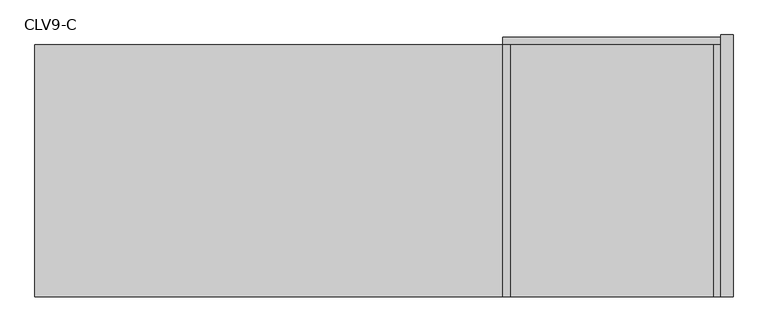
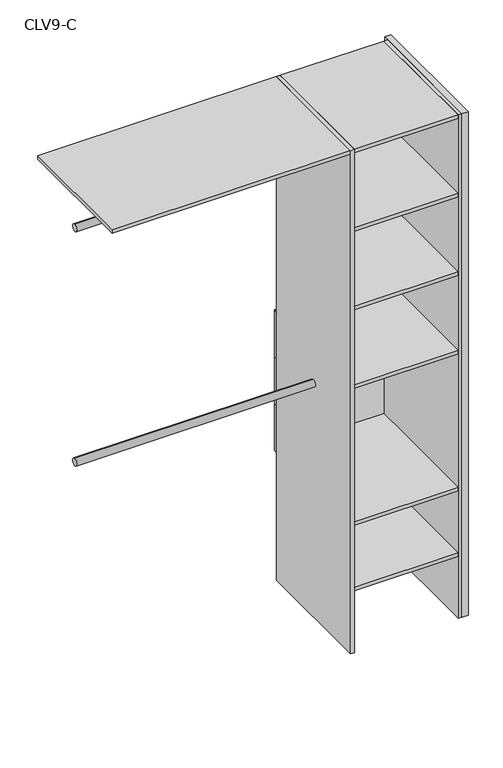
"""IFC4 building model written with IfcOpenShell, lengths in millimetres: furniture geometry, Closet 1estantes-1tubos_lateral estante : CLV9-C."""

from ifc_helpers import new_model, si_unit, point, frame, frame_2d, origin, origin_with_axes, place, context, project, spatial, polyline, circle_curve, trimmed, segment, composite_curve, outline, extrude, source, transform, mapped, element, save


def clv9_c_d69b0f3d(model_context):
    return source(origin(), model_context, "Body", "SweptSolid", [
        extrude(outline(polyline([(250.0, -60.0), (250.0, -600.0), (225.0, -600.0), (225.0, -60.0), (250.0, -60.0)])), origin_with_axes(), (0.0, 0.0, 1.0), 2150.0),
        extrude(outline(polyline([(225.0, -80.0), (225.0, -600.0), (210.0, -600.0), (210.0, -80.0), (225.0, -80.0)])), origin_with_axes(), (0.0, 0.0, 1.0), 2150.0),
        extrude(outline(polyline([(-210.0, -80.0), (-210.0, -600.0), (-225.0, -600.0), (-225.0, -80.0), (-210.0, -80.0)])), origin_with_axes(), (0.0, 0.0, 1.0), 2150.0),
        extrude(outline(polyline([(225.0, -80.0), (-225.0, -80.0), (-225.0, -65.0), (225.0, -65.0), (225.0, -80.0)])), frame((0.0, 0.0, 945.0), z_axis=(0.0, 0.0, 1.0), x_axis=(1.0, 0.0, 0.0)), (0.0, 0.0, 1.0), 200.0),
        extrude(outline(polyline([(225.0, -80.0), (-225.0, -80.0), (-225.0, -65.0), (225.0, -65.0), (225.0, -80.0)])), frame((0.0, 0.0, 745.0), z_axis=(0.0, 0.0, 1.0), x_axis=(1.0, 0.0, 0.0)), (0.0, 0.0, 1.0), 200.0),
        extrude(outline(polyline([(225.0, -80.0), (-225.0, -80.0), (-225.0, -65.0), (225.0, -65.0), (225.0, -80.0)])), frame((0.0, 0.0, 545.0), z_axis=(0.0, 0.0, 1.0), x_axis=(1.0, 0.0, 0.0)), (0.0, 0.0, 1.0), 200.0),
        extrude(outline(polyline([(210.0, -80.0), (210.0, -600.0), (-210.0, -600.0), (-210.0, -80.0), (210.0, -80.0)])), frame((0.0, 0.0, 1130.0), z_axis=(0.0, 0.0, 1.0), x_axis=(1.0, 0.0, 0.0)), (0.0, 0.0, 1.0), 15.0),
        extrude(outline(composite_curve([segment(trimmed(circle_curve(frame_2d((-340.0, 1000.0)), 15.0), [point((-340.0, 1015.0))], [point((-340.0, 985.0))], False, "CARTESIAN"), True, "CONTINUOUS"), segment(trimmed(circle_curve(frame_2d((-340.0, 1000.0)), 15.0), [point((-340.0, 985.0))], [point((-340.0, 1015.0))], False, "CARTESIAN"), True, "CONTINUOUS")], self_intersect=False)), frame((-1190.0, 0.0, 0.0), z_axis=(1.0, 0.0, 0.0), x_axis=(0.0, 1.0, 0.0)), (0.0, 0.0, 1.0), 965.0),
        extrude(outline(composite_curve([segment(trimmed(circle_curve(frame_2d((-340.0, 2000.0)), 15.0), [point((-340.0, 2015.0))], [point((-340.0, 1985.0))], False, "CARTESIAN"), True, "CONTINUOUS"), segment(trimmed(circle_curve(frame_2d((-340.0, 2000.0)), 15.0), [point((-340.0, 1985.0))], [point((-340.0, 2015.0))], False, "CARTESIAN"), True, "CONTINUOUS")], self_intersect=False)), frame((-1190.0, 0.0, 0.0), z_axis=(1.0, 0.0, 0.0), x_axis=(0.0, 1.0, 0.0)), (0.0, 0.0, 1.0), 965.0),
        extrude(outline(polyline([(210.0, -80.0), (210.0, -600.0), (-210.0, -600.0), (-210.0, -80.0), (210.0, -80.0)])), frame((0.0, 0.0, 265.0), z_axis=(0.0, 0.0, 1.0), x_axis=(1.0, 0.0, 0.0)), (0.0, 0.0, 1.0), 15.0),
        extrude(outline(polyline([(210.0, -80.0), (210.0, -600.0), (-210.0, -600.0), (-210.0, -80.0), (210.0, -80.0)])), frame((0.0, 0.0, 545.0), z_axis=(0.0, 0.0, 1.0), x_axis=(1.0, 0.0, 0.0)), (0.0, 0.0, 1.0), 15.0),
        extrude(outline(polyline([(210.0, -80.0), (210.0, -600.0), (-210.0, -600.0), (-210.0, -80.0), (210.0, -80.0)])), frame((0.0, 0.0, 1465.0), z_axis=(0.0, 0.0, 1.0), x_axis=(1.0, 0.0, 0.0)), (0.0, 0.0, 1.0), 15.0),
        extrude(outline(polyline([(210.0, -80.0), (210.0, -600.0), (-210.0, -600.0), (-210.0, -80.0), (210.0, -80.0)])), frame((0.0, 0.0, 1800.0), z_axis=(0.0, 0.0, 1.0), x_axis=(1.0, 0.0, 0.0)), (0.0, 0.0, 1.0), 15.0),
        extrude(outline(polyline([(-210.0, -80.0), (-210.0, -600.0), (-1190.0, -600.0), (-1190.0, -80.0), (-210.0, -80.0)])), frame((0.0, 0.0, 2135.0), z_axis=(0.0, 0.0, 1.0), x_axis=(1.0, 0.0, 0.0)), (0.0, 0.0, 1.0), 15.0),
        extrude(outline(polyline([(210.0, -80.0), (210.0, -600.0), (-210.0, -600.0), (-210.0, -80.0), (210.0, -80.0)])), frame((0.0, 0.0, 2135.0), z_axis=(0.0, 0.0, 1.0), x_axis=(1.0, 0.0, 0.0)), (0.0, 0.0, 1.0), 15.0),
    ])


if __name__ == "__main__":
    model = new_model("IFC4")
    model_context = context("Model", 3, world=origin())
    ifc_project = project(units=[si_unit("LENGTHUNIT", "METRE", prefix="MILLI")], contexts=[model_context])
    site = spatial("IfcSite", under=ifc_project)
    building = spatial("IfcBuilding", under=site)
    placement = place(None, origin())
    clv9_c_shape = clv9_c_d69b0f3d(model_context)
    element("IfcFurniture", 1, ObjectType="Closet 1estantes-1tubos_lateral estante : CLV9-C", at=placement, inside=building, context=model_context, shape_type="MappedRepresentation", body=[
        mapped(clv9_c_shape, transform((0.0, 0.0, 0.0), x_axis=(1.0, 0.0, 0.0), y_axis=(0.0, 1.0, 0.0), z_axis=(0.0, 0.0, 1.0))),
    ])
    save(model, "model.ifc")
